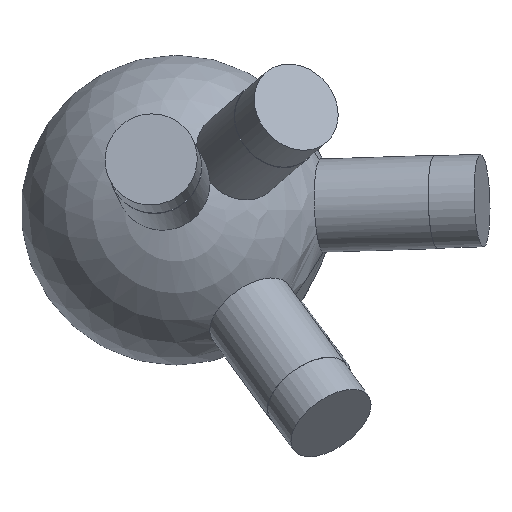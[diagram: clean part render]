
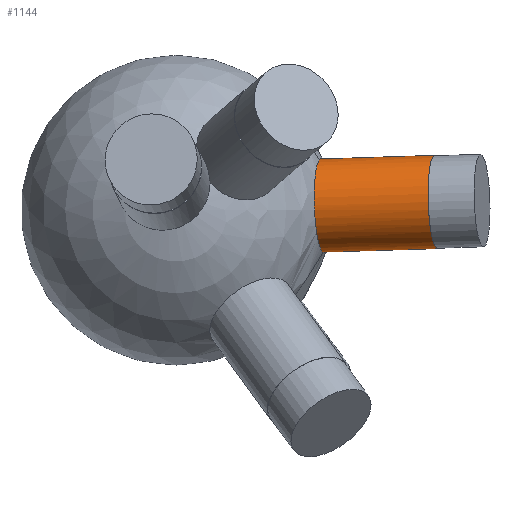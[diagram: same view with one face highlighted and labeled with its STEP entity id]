
A CAD part, top view. The second image highlights one B-rep face of the part: STEP entity #1144.
In plain terms, the highlighted cylindrical face has radius 6 mm (diameter 12 mm), a full revolution.
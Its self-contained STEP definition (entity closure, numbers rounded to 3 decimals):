
#33 = SPHERICAL_SURFACE('',#34,20.);
#34 = AXIS2_PLACEMENT_3D('',#35,#36,#37);
#35 = CARTESIAN_POINT('',(0.,0.,0.));
#36 = DIRECTION('',(0.,0.,1.));
#37 = DIRECTION('',(1.,0.,-0.));
#85 = VERTEX_POINT('',#86);
#86 = CARTESIAN_POINT('',(17.803,0.,
    9.113));
#108 = EDGE_CURVE('',#109,#85,#111,.T.);
#109 = VERTEX_POINT('',#110);
#110 = CARTESIAN_POINT('',(17.78,0.589,9.139
    ));
#111 = SURFACE_CURVE('',#112,(#117,#127),.PCURVE_S1.);
#112 = CIRCLE('',#113,6.);
#113 = AXIS2_PLACEMENT_3D('',#114,#115,#116);
#114 = CARTESIAN_POINT('',(18.795,0.589,3.225
    ));
#115 = DIRECTION('',(0.985,0.031,0.169));
#116 = DIRECTION('',(-0.169,0.,0.986)
  );
#117 = PCURVE('',#33,#118);
#118 = DEFINITIONAL_REPRESENTATION('',(#119),#126);
#119 = B_SPLINE_CURVE_WITH_KNOTS('',5,(#120,#121,#122,#123,#124,#125),
  .UNSPECIFIED.,.F.,.F.,(6,6),(0.,0.098),
  .PIECEWISE_BEZIER_KNOTS.);
#120 = CARTESIAN_POINT('',(0.033,0.475));
#121 = CARTESIAN_POINT('',(0.026,0.475));
#122 = CARTESIAN_POINT('',(0.02,0.474));
#123 = CARTESIAN_POINT('',(0.013,0.474));
#124 = CARTESIAN_POINT('',(0.007,0.474));
#125 = CARTESIAN_POINT('',(0.,0.473));
#126 = ( GEOMETRIC_REPRESENTATION_CONTEXT(2) 
PARAMETRIC_REPRESENTATION_CONTEXT() REPRESENTATION_CONTEXT('2D SPACE',''
  ) );
#127 = PCURVE('',#128,#133);
#128 = CYLINDRICAL_SURFACE('',#129,6.);
#129 = AXIS2_PLACEMENT_3D('',#130,#131,#132);
#130 = CARTESIAN_POINT('',(0.,0.,0.));
#131 = DIRECTION('',(0.985,0.031,0.169));
#132 = DIRECTION('',(-0.169,0.,0.986)
  );
#133 = DEFINITIONAL_REPRESENTATION('',(#134),#138);
#134 = LINE('',#135,#136);
#135 = CARTESIAN_POINT('',(0.,19.079));
#136 = VECTOR('',#137,1.);
#137 = DIRECTION('',(1.,0.));
#138 = ( GEOMETRIC_REPRESENTATION_CONTEXT(2) 
PARAMETRIC_REPRESENTATION_CONTEXT() REPRESENTATION_CONTEXT('2D SPACE',''
  ) );
#140 = EDGE_CURVE('',#141,#109,#143,.T.);
#141 = VERTEX_POINT('',#142);
#142 = CARTESIAN_POINT('',(19.823,0.,
    -2.657));
#143 = SURFACE_CURVE('',#144,(#149,#183),.PCURVE_S1.);
#144 = CIRCLE('',#145,6.);
#145 = AXIS2_PLACEMENT_3D('',#146,#147,#148);
#146 = CARTESIAN_POINT('',(18.795,0.589,3.225
    ));
#147 = DIRECTION('',(0.985,0.031,0.169));
#148 = DIRECTION('',(-0.169,0.,0.986)
  );
#149 = PCURVE('',#33,#150);
#150 = DEFINITIONAL_REPRESENTATION('',(#151),#182);
#151 = B_SPLINE_CURVE_WITH_KNOTS('',8,(#152,#153,#154,#155,#156,#157,
    #158,#159,#160,#161,#162,#163,#164,#165,#166,#167,#168,#169,#170,
    #171,#172,#173,#174,#175,#176,#177,#178,#179,#180,#181),
  .UNSPECIFIED.,.F.,.F.,(9,7,7,7,9),(3.043,3.853,
    5.068,5.676,6.283),.UNSPECIFIED.);
#152 = CARTESIAN_POINT('',(0.,-0.133));
#153 = CARTESIAN_POINT('',(0.03,-0.136));
#154 = CARTESIAN_POINT('',(0.061,-0.136));
#155 = CARTESIAN_POINT('',(0.092,-0.132));
#156 = CARTESIAN_POINT('',(0.122,-0.125));
#157 = CARTESIAN_POINT('',(0.151,-0.114));
#158 = CARTESIAN_POINT('',(0.179,-0.1));
#159 = CARTESIAN_POINT('',(0.204,-0.083));
#160 = CARTESIAN_POINT('',(0.263,-0.035));
#161 = CARTESIAN_POINT('',(0.293,0.001));
#162 = CARTESIAN_POINT('',(0.317,0.04));
#163 = CARTESIAN_POINT('',(0.334,0.084));
#164 = CARTESIAN_POINT('',(0.344,0.13));
#165 = CARTESIAN_POINT('',(0.346,0.176));
#166 = CARTESIAN_POINT('',(0.341,0.222));
#167 = CARTESIAN_POINT('',(0.321,0.288));
#168 = CARTESIAN_POINT('',(0.312,0.309));
#169 = CARTESIAN_POINT('',(0.302,0.33));
#170 = CARTESIAN_POINT('',(0.289,0.349));
#171 = CARTESIAN_POINT('',(0.275,0.368));
#172 = CARTESIAN_POINT('',(0.259,0.385));
#173 = CARTESIAN_POINT('',(0.241,0.401));
#174 = CARTESIAN_POINT('',(0.201,0.429));
#175 = CARTESIAN_POINT('',(0.18,0.442));
#176 = CARTESIAN_POINT('',(0.158,0.452));
#177 = CARTESIAN_POINT('',(0.134,0.461));
#178 = CARTESIAN_POINT('',(0.11,0.468));
#179 = CARTESIAN_POINT('',(0.084,0.472));
#180 = CARTESIAN_POINT('',(0.059,0.474));
#181 = CARTESIAN_POINT('',(0.033,0.475));
#182 = ( GEOMETRIC_REPRESENTATION_CONTEXT(2) 
PARAMETRIC_REPRESENTATION_CONTEXT() REPRESENTATION_CONTEXT('2D SPACE',''
  ) );
#183 = PCURVE('',#128,#184);
#184 = DEFINITIONAL_REPRESENTATION('',(#185),#189);
#185 = LINE('',#186,#187);
#186 = CARTESIAN_POINT('',(0.,19.079));
#187 = VECTOR('',#188,1.);
#188 = DIRECTION('',(1.,0.));
#189 = ( GEOMETRIC_REPRESENTATION_CONTEXT(2) 
PARAMETRIC_REPRESENTATION_CONTEXT() REPRESENTATION_CONTEXT('2D SPACE',''
  ) );
#384 = EDGE_CURVE('',#85,#141,#385,.T.);
#385 = SURFACE_CURVE('',#386,(#391,#418),.PCURVE_S1.);
#386 = CIRCLE('',#387,6.);
#387 = AXIS2_PLACEMENT_3D('',#388,#389,#390);
#388 = CARTESIAN_POINT('',(18.795,0.589,3.225
    ));
#389 = DIRECTION('',(0.985,0.031,0.169));
#390 = DIRECTION('',(-0.169,0.,0.986)
  );
#391 = PCURVE('',#33,#392);
#392 = DEFINITIONAL_REPRESENTATION('',(#393),#417);
#393 = B_SPLINE_CURVE_WITH_KNOTS('',8,(#394,#395,#396,#397,#398,#399,
    #400,#401,#402,#403,#404,#405,#406,#407,#408,#409,#410,#411,#412,
    #413,#414,#415,#416),.UNSPECIFIED.,.F.,.F.,(9,7,7,9),(
    0.098,0.835,1.939,3.043),
  .UNSPECIFIED.);
#394 = CARTESIAN_POINT('',(6.283,0.473));
#395 = CARTESIAN_POINT('',(6.252,0.47));
#396 = CARTESIAN_POINT('',(6.222,0.464));
#397 = CARTESIAN_POINT('',(6.192,0.455));
#398 = CARTESIAN_POINT('',(6.164,0.443));
#399 = CARTESIAN_POINT('',(6.138,0.428));
#400 = CARTESIAN_POINT('',(6.115,0.41));
#401 = CARTESIAN_POINT('',(6.094,0.391));
#402 = CARTESIAN_POINT('',(6.047,0.337));
#403 = CARTESIAN_POINT('',(6.025,0.301));
#404 = CARTESIAN_POINT('',(6.01,0.261));
#405 = CARTESIAN_POINT('',(6.001,0.219));
#406 = CARTESIAN_POINT('',(5.999,0.177));
#407 = CARTESIAN_POINT('',(6.003,0.135));
#408 = CARTESIAN_POINT('',(6.014,0.095));
#409 = CARTESIAN_POINT('',(6.046,0.018));
#410 = CARTESIAN_POINT('',(6.067,-0.018));
#411 = CARTESIAN_POINT('',(6.094,-0.05));
#412 = CARTESIAN_POINT('',(6.126,-0.078));
#413 = CARTESIAN_POINT('',(6.162,-0.101));
#414 = CARTESIAN_POINT('',(6.201,-0.118));
#415 = CARTESIAN_POINT('',(6.242,-0.129));
#416 = CARTESIAN_POINT('',(6.283,-0.133));
#417 = ( GEOMETRIC_REPRESENTATION_CONTEXT(2) 
PARAMETRIC_REPRESENTATION_CONTEXT() REPRESENTATION_CONTEXT('2D SPACE',''
  ) );
#418 = PCURVE('',#128,#419);
#419 = DEFINITIONAL_REPRESENTATION('',(#420),#424);
#420 = LINE('',#421,#422);
#421 = CARTESIAN_POINT('',(0.,19.079));
#422 = VECTOR('',#423,1.);
#423 = DIRECTION('',(1.,0.));
#424 = ( GEOMETRIC_REPRESENTATION_CONTEXT(2) 
PARAMETRIC_REPRESENTATION_CONTEXT() REPRESENTATION_CONTEXT('2D SPACE',''
  ) );
#1144 = ADVANCED_FACE('',(#1145),#128,.T.);
#1145 = FACE_BOUND('',#1146,.T.);
#1146 = EDGE_LOOP('',(#1147,#1170,#1197,#1198,#1199,#1200));
#1147 = ORIENTED_EDGE('',*,*,#1148,.T.);
#1148 = EDGE_CURVE('',#109,#1149,#1151,.T.);
#1149 = VERTEX_POINT('',#1150);
#1150 = CARTESIAN_POINT('',(32.42,1.047,
    11.65));
#1151 = SEAM_CURVE('',#1152,(#1156,#1163),.PCURVE_S1.);
#1152 = LINE('',#1153,#1154);
#1153 = CARTESIAN_POINT('',(-1.015,0.,
    5.914));
#1154 = VECTOR('',#1155,1.);
#1155 = DIRECTION('',(0.985,0.031,0.169));
#1156 = PCURVE('',#128,#1157);
#1157 = DEFINITIONAL_REPRESENTATION('',(#1158),#1162);
#1158 = LINE('',#1159,#1160);
#1159 = CARTESIAN_POINT('',(6.283,-0.));
#1160 = VECTOR('',#1161,1.);
#1161 = DIRECTION('',(0.,1.));
#1162 = ( GEOMETRIC_REPRESENTATION_CONTEXT(2) 
PARAMETRIC_REPRESENTATION_CONTEXT() REPRESENTATION_CONTEXT('2D SPACE',''
  ) );
#1163 = PCURVE('',#128,#1164);
#1164 = DEFINITIONAL_REPRESENTATION('',(#1165),#1169);
#1165 = LINE('',#1166,#1167);
#1166 = CARTESIAN_POINT('',(0.,-0.));
#1167 = VECTOR('',#1168,1.);
#1168 = DIRECTION('',(0.,1.));
#1169 = ( GEOMETRIC_REPRESENTATION_CONTEXT(2) 
PARAMETRIC_REPRESENTATION_CONTEXT() REPRESENTATION_CONTEXT('2D SPACE',''
  ) );
#1170 = ORIENTED_EDGE('',*,*,#1171,.F.);
#1171 = EDGE_CURVE('',#1149,#1149,#1172,.T.);
#1172 = SURFACE_CURVE('',#1173,(#1178,#1185),.PCURVE_S1.);
#1173 = CIRCLE('',#1174,6.);
#1174 = AXIS2_PLACEMENT_3D('',#1175,#1176,#1177);
#1175 = CARTESIAN_POINT('',(33.435,1.047,
    5.737));
#1176 = DIRECTION('',(0.985,0.031,0.169));
#1177 = DIRECTION('',(-0.169,0.,0.986)
  );
#1178 = PCURVE('',#128,#1179);
#1179 = DEFINITIONAL_REPRESENTATION('',(#1180),#1184);
#1180 = LINE('',#1181,#1182);
#1181 = CARTESIAN_POINT('',(0.,33.939));
#1182 = VECTOR('',#1183,1.);
#1183 = DIRECTION('',(1.,0.));
#1184 = ( GEOMETRIC_REPRESENTATION_CONTEXT(2) 
PARAMETRIC_REPRESENTATION_CONTEXT() REPRESENTATION_CONTEXT('2D SPACE',''
  ) );
#1185 = PCURVE('',#1186,#1191);
#1186 = PLANE('',#1187);
#1187 = AXIS2_PLACEMENT_3D('',#1188,#1189,#1190);
#1188 = CARTESIAN_POINT('',(33.435,1.047,
    5.737));
#1189 = DIRECTION('',(0.985,0.031,0.169));
#1190 = DIRECTION('',(-0.169,0.,0.986)
  );
#1191 = DEFINITIONAL_REPRESENTATION('',(#1192),#1196);
#1192 = CIRCLE('',#1193,6.);
#1193 = AXIS2_PLACEMENT_2D('',#1194,#1195);
#1194 = CARTESIAN_POINT('',(0.,0.));
#1195 = DIRECTION('',(1.,0.));
#1196 = ( GEOMETRIC_REPRESENTATION_CONTEXT(2) 
PARAMETRIC_REPRESENTATION_CONTEXT() REPRESENTATION_CONTEXT('2D SPACE',''
  ) );
#1197 = ORIENTED_EDGE('',*,*,#1148,.F.);
#1198 = ORIENTED_EDGE('',*,*,#108,.T.);
#1199 = ORIENTED_EDGE('',*,*,#384,.T.);
#1200 = ORIENTED_EDGE('',*,*,#140,.T.);
